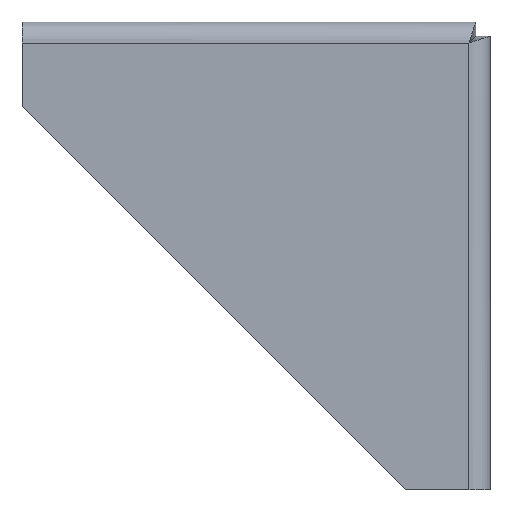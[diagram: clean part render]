
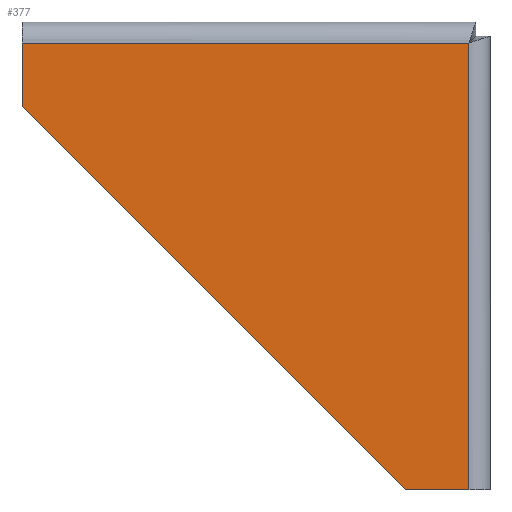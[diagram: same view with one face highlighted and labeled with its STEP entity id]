
A CAD part, front view. The second image highlights one B-rep face of the part: STEP entity #377.
In plain terms, the highlighted planar face has unit normal (0, -1, 0).
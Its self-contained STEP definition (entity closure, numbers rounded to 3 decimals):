
#29 = DIRECTION ( 'NONE',  ( 0., 0., 1. ) ) ;
#34 = CARTESIAN_POINT ( 'NONE',  ( 95.5, -3., -100. ) ) ;
#39 = EDGE_CURVE ( 'NONE', #920, #859, #1089, .T. ) ;
#114 = DIRECTION ( 'NONE',  ( 0., 0., 1. ) ) ;
#120 = CARTESIAN_POINT ( 'NONE',  ( 0., -3., -4.5 ) ) ;
#122 = CARTESIAN_POINT ( 'NONE',  ( 82., -3., -100. ) ) ;
#185 = EDGE_CURVE ( 'NONE', #974, #920, #915, .T. ) ;
#215 = DIRECTION ( 'NONE',  ( 0., 0., 1. ) ) ;
#219 = CARTESIAN_POINT ( 'NONE',  ( 95.5, -3., -100. ) ) ;
#352 = VERTEX_POINT ( 'NONE', #120 ) ;
#370 = EDGE_CURVE ( 'NONE', #595, #352, #1102, .T. ) ;
#377 = ADVANCED_FACE ( 'NONE', ( #426 ), #902, .F. ) ;
#390 = DIRECTION ( 'NONE',  ( -0.707, 0., 0.707 ) ) ;
#401 = DIRECTION ( 'NONE',  ( -1., 0., 0. ) ) ;
#417 = CARTESIAN_POINT ( 'NONE',  ( 100., -3., -100. ) ) ;
#426 = FACE_OUTER_BOUND ( 'NONE', #512, .T. ) ;
#453 = CARTESIAN_POINT ( 'NONE',  ( 0., -3., -18. ) ) ;
#463 = VECTOR ( 'NONE', #401, 1000. ) ;
#469 = ORIENTED_EDGE ( 'NONE', *, *, #1061, .F. ) ;
#480 = VECTOR ( 'NONE', #641, 1000. ) ;
#484 = ORIENTED_EDGE ( 'NONE', *, *, #185, .F. ) ;
#504 = VECTOR ( 'NONE', #29, 1000. ) ;
#512 = EDGE_LOOP ( 'NONE', ( #625, #469, #909, #484, #1106 ) ) ;
#595 = VERTEX_POINT ( 'NONE', #743 ) ;
#625 = ORIENTED_EDGE ( 'NONE', *, *, #370, .T. ) ;
#626 = LINE ( 'NONE', #894, #850 ) ;
#641 = DIRECTION ( 'NONE',  ( -1., 0., 0. ) ) ;
#721 = CARTESIAN_POINT ( 'NONE',  ( 82., -3., -100. ) ) ;
#743 = CARTESIAN_POINT ( 'NONE',  ( 95.5, -3., -4.5 ) ) ;
#757 = LINE ( 'NONE', #219, #504 ) ;
#828 = VECTOR ( 'NONE', #390, 1000. ) ;
#850 = VECTOR ( 'NONE', #215, 1000. ) ;
#859 = VERTEX_POINT ( 'NONE', #453 ) ;
#894 = CARTESIAN_POINT ( 'NONE',  ( 0., -3., -18. ) ) ;
#902 = PLANE ( 'NONE',  #1142 ) ;
#909 = ORIENTED_EDGE ( 'NONE', *, *, #39, .F. ) ;
#915 = LINE ( 'NONE', #417, #463 ) ;
#920 = VERTEX_POINT ( 'NONE', #721 ) ;
#974 = VERTEX_POINT ( 'NONE', #34 ) ;
#986 = CARTESIAN_POINT ( 'NONE',  ( 0., -3., 0. ) ) ;
#991 = CARTESIAN_POINT ( 'NONE',  ( 95.5, -3., -4.5 ) ) ;
#1014 = EDGE_CURVE ( 'NONE', #974, #595, #757, .T. ) ;
#1061 = EDGE_CURVE ( 'NONE', #859, #352, #626, .T. ) ;
#1079 = DIRECTION ( 'NONE',  ( 0., 1., 0. ) ) ;
#1089 = LINE ( 'NONE', #122, #828 ) ;
#1102 = LINE ( 'NONE', #991, #480 ) ;
#1106 = ORIENTED_EDGE ( 'NONE', *, *, #1014, .T. ) ;
#1142 = AXIS2_PLACEMENT_3D ( 'NONE', #986, #1079, #114 ) ;
